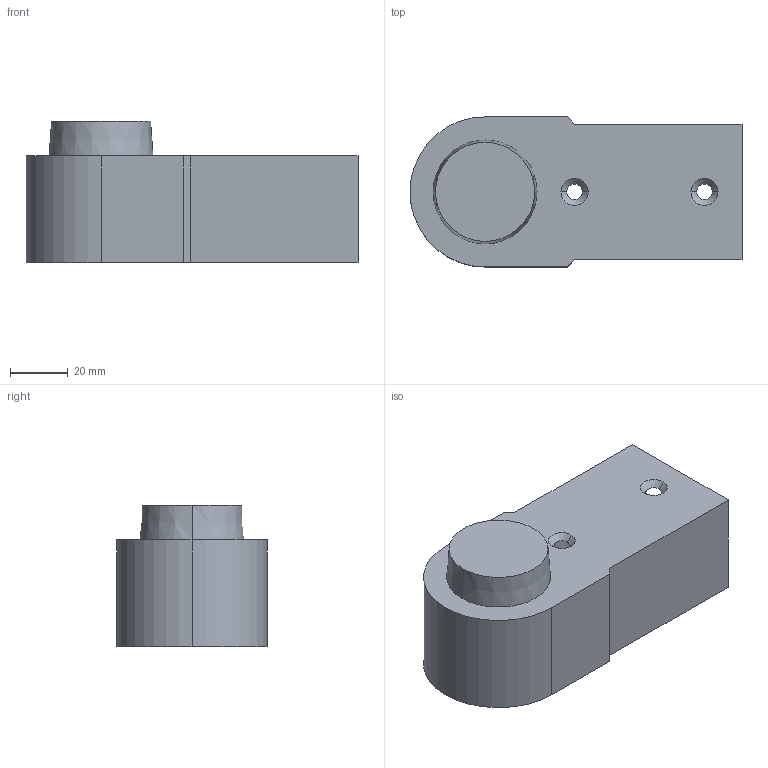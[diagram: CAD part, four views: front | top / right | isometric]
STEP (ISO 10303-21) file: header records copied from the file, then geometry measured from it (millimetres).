
FILE_DESCRIPTION (( 'STEP AP203' ), '1' );
FILE_NAME ('084.802.023.STEP', '2013-01-29T12:48:15', ( 'Alusic' ), ( 'Alusic' ), 'SwSTEP 2.0', 'SolidWorks 2011', '' );
FILE_SCHEMA (( 'CONFIG_CONTROL_DESIGN' ));
Length unit declared in the file: millimetre
Products named in the file (1): 084.802.023
Bounding box: 115 x 52 x 49 mm (x, y, z)
Volume: 31054.8 mm3; surface area: 31935.4 mm2
Topology: 1 solids, 1 shells, 30 faces, 78 edges, 52 vertices
Faces by surface type: plane 18, cone 8, cylinder 4
Entity records: 1011 total; most frequent: DIRECTION 164, CARTESIAN_POINT 161, ORIENTED_EDGE 156, EDGE_CURVE 78, AXIS2_PLACEMENT_3D 55, VECTOR 54, LINE 54, VERTEX_POINT 52
